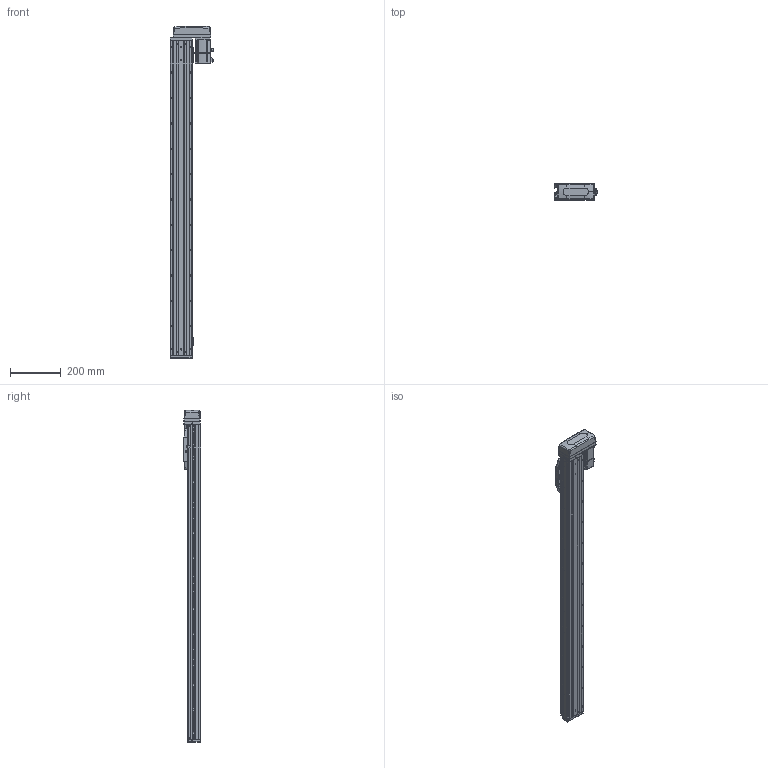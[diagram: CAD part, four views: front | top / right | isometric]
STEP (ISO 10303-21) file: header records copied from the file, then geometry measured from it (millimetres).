
FILE_DESCRIPTION (( 'STEP AP203' ), '1' );
FILE_NAME ('CTHA86-1050-BL-M20-C4L.step', '2022-04-26T00:49:56', ( '微软用户' ), ( '微软中国' ), 'SwSTEP 2.0', 'SolidWorks 2020', '' );
FILE_SCHEMA (( 'CONFIG_CONTROL_DESIGN' ));
Length unit declared in the file: millimetre
Products named in the file (21): CTHA60-017; CTHA60-016; CTHA86-033; CTHA60-021; _X2_4E0983F1_X0_200W_1; CTHA86-1050-BL-M20-C4L; KTHA86-001_1240; GBT77-2000 M3×3; CTHA86-002; KTHA86-004; GBT 70.1-M3×20; CTHA86-031; KTHA86-005; GBT70.1 M5℅16; CTHA86-030; GB¨uT 70.2-M3¡Á5_M3¡Á6; GBT 70.1-M3×16; GBT 70.3-M3℅6; EE_SX911P_R; GBT 70.1-M3℅6; CTHA86-015-1_CTHA86-015-2
Assembly tree (66 placements, depth 2):
  CTHA86-1050-BL-M20-C4L
    KTHA86-001_1240
    KTHA86-004
    KTHA86-005
    GB¨uT 70.2-M3¡Á5_M3¡Á6  x10
    EE_SX911P_R  x3
    CTHA60-017  x3
    CTHA60-021  x2
    GBT77-2000 M3×3  x6
    GBT 70.1-M3×20
    GBT70.1 M5℅16  x14
    GBT 70.1-M3×16  x5
    GBT 70.1-M3℅6  x6
    CTHA60-016  x2
    _X2_4E0983F1_X0_200W_1
    CTHA86-002
    CTHA86-031
    CTHA86-030  x2
    GBT 70.3-M3℅6  x4
    CTHA86-015-1_CTHA86-015-2
    CTHA86-033
Bounding box: 172.7 x 68 x 1309 mm (x, y, z)
Volume: 4803200.3 mm3; surface area: 813717.8 mm2
Topology: 68 solids, 68 shells, 2866 faces, 6876 edges, 4240 vertices
Faces by surface type: plane 1511, cylinder 747, cone 377, torus 132, bspline 75, sphere 24
Entity records: 51665 total; most frequent: CARTESIAN_POINT 9955, DIRECTION 8069, ORIENTED_EDGE 7852, EDGE_CURVE 3926, AXIS2_PLACEMENT_3D 2738, LINE 2593, VECTOR 2593, VERTEX_POINT 2472
